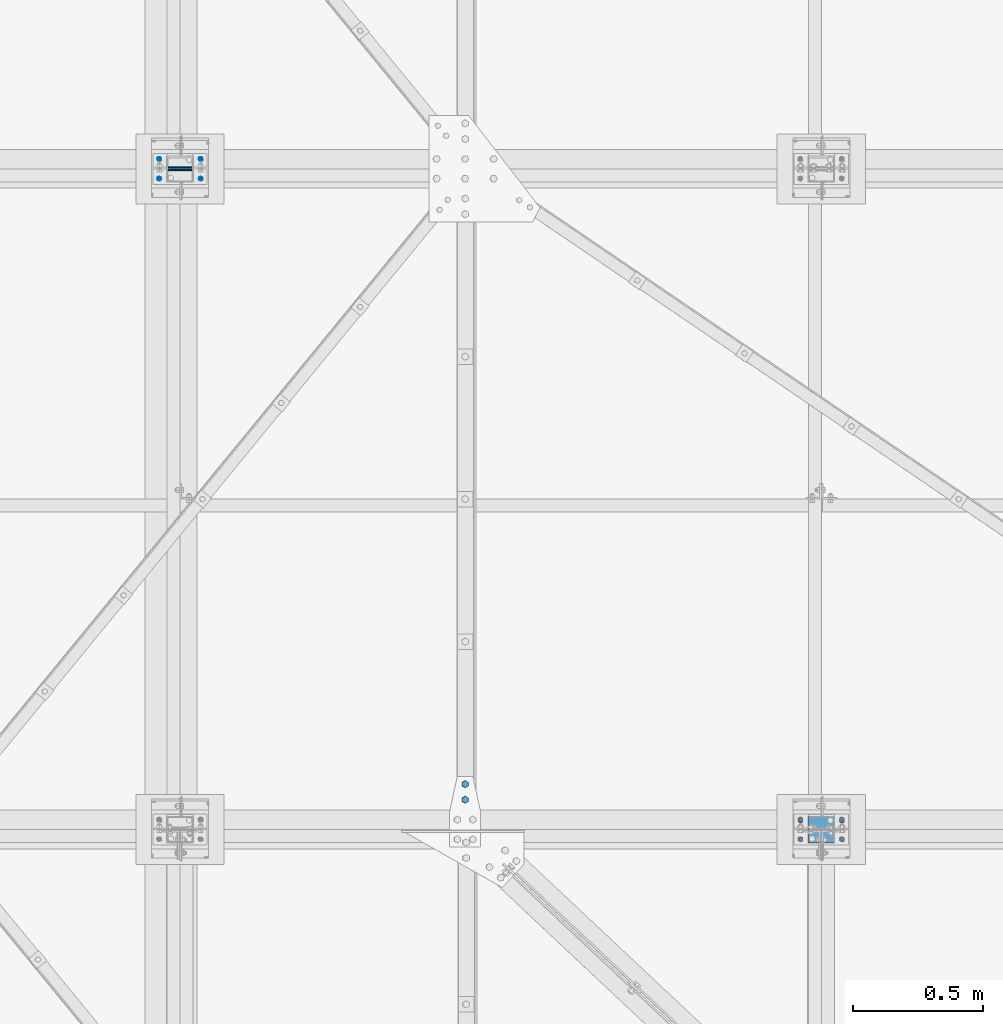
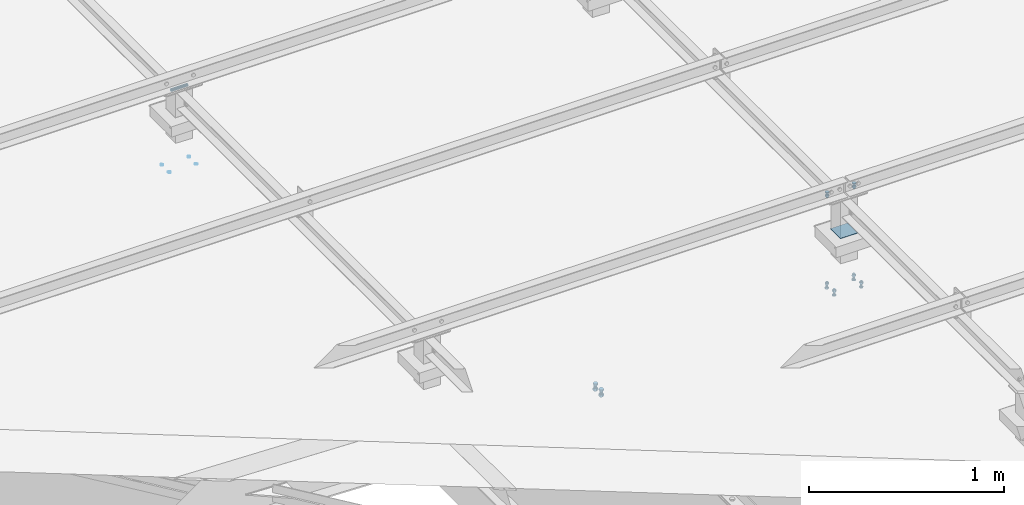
# One storey, part 314 of 3134: 6 mechanical fasteners, 6 elements without a shape of their own.
"""IFC2X3 building model written with IfcOpenShell, lengths in millimetres."""

from ifc_helpers import new_model, si_unit, frame, origin_with_axes, place, context, subcontext, project, spatial, faceted_brep, source, transform, mapped, material, type_object, element, aggregate, save


model = new_model("IFC2X3")

# Units and contexts
model_context = context("Model", 3, precision=1e-05, world=origin_with_axes())
body_context = subcontext(model_context, "Body", "Model", "MODEL_VIEW")
ifc_project = project(units=[si_unit("LENGTHUNIT", "METRE", prefix="MILLI"), si_unit("AREAUNIT", "SQUARE_METRE"), si_unit("VOLUMEUNIT", "CUBIC_METRE"), si_unit("MASSUNIT", "GRAM", prefix="KILO"), si_unit("TIMEUNIT", "SECOND"), si_unit("PLANEANGLEUNIT", "RADIAN"), si_unit("SOLIDANGLEUNIT", "STERADIAN"), si_unit("THERMODYNAMICTEMPERATUREUNIT", "DEGREE_CELSIUS"), si_unit("LUMINOUSINTENSITYUNIT", "LUMEN")], contexts=[model_context])

# Site, building, storey
site_placement = place(None, origin_with_axes())
site = spatial("IfcSite", under=ifc_project, at=site_placement, CompositionType="ELEMENT")
building_placement = place(site_placement, origin_with_axes())
building = spatial("IfcBuilding", under=site, at=building_placement, Name="Undefined", CompositionType="ELEMENT")
storey_placement = place(building_placement, origin_with_axes())
storey = spatial("IfcBuildingStorey", under=building, at=storey_placement, Name="Undefined", CompositionType="ELEMENT", Elevation=0.0)

# Assembly, mechanical fastener
assembly_1_placement = place(storey_placement, origin_with_axes())
assembly_1 = element("IfcElementAssembly", 1, at=assembly_1_placement, inside=storey, AssemblyPlace="NOTDEFINED", PredefinedType="RIGID_FRAME")
ifc_material_1 = material(Name="8.8")
mechanical_fastener_type = type_object("IfcMechanicalFastenerType", Name="Bolt assembly")
shared_shape_1 = source(origin_with_axes(), body_context, "Body", "Brep", [
    faceted_brep([(10.9696551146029, -14.0, 0.0), (5.48482755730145, -14.0, 9.5), (-5.48482755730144, -14.0, 9.5), (-10.9696551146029, -14.0, 1.34339530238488e-15), (-5.48482755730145, -14.0, -9.5), (5.48482755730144, -14.0, -9.50000000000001), (5.48482755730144, -6.0, -9.50000000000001), (-5.48482755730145, -6.0, -9.5), (-10.9696551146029, -6.0, 1.34339530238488e-15), (-5.48482755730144, -6.0, 9.5), (5.48482755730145, -6.0, 9.5), (10.9696551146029, -6.0, 0.0), (6.0, -6.0, 0.0), (5.19615242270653, -6.0, 3.00000000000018), (2.99999999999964, -6.0, 5.19615242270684), (-6.21801588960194e-13, -6.0, 6.0), (-3.00000000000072, -6.0, 5.19615242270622), (-5.19615242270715, -6.0, 2.9999999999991), (-6.0, -6.0, -1.24360317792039e-12), (-5.19615242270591, -6.0, -3.00000000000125), (-2.99999999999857, -6.0, -5.19615242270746), (1.85874342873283e-12, -6.0, -6.0), (3.00000000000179, -6.0, -5.1961524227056), (5.19615242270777, -6.0, -2.99999999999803), (5.19615242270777, 24.0, -2.99999999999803), (3.00000000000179, 24.0, -5.1961524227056), (1.85874342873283e-12, 24.0, -6.0), (-2.99999999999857, 24.0, -5.19615242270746), (-5.19615242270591, 24.0, -3.00000000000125), (-6.0, 24.0, -1.24360317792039e-12), (-5.19615242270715, 24.0, 2.9999999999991), (-3.00000000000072, 24.0, 5.19615242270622), (-6.21801588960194e-13, 24.0, 6.0), (2.99999999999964, 24.0, 5.19615242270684), (5.19615242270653, 24.0, 3.00000000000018), (6.0, 24.0, 0.0), (10.9696551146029, 6.00000000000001, 0.0), (5.48482755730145, 6.00000000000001, 9.5), (-5.48482755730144, 6.00000000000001, 9.5), (-10.9696551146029, 6.00000000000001, 1.34339530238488e-15), (-5.48482755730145, 6.00000000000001, -9.5), (5.48482755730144, 6.00000000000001, -9.50000000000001), (5.48482755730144, 16.0, -9.50000000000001), (-5.48482755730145, 16.0, -9.5), (-10.9696551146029, 16.0, 1.34339530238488e-15), (-5.48482755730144, 16.0, 9.5), (5.48482755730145, 16.0, 9.5), (10.9696551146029, 16.0, 0.0)], [[[0, 1, 2, 3, 4, 5]], [[6, 7, 8, 9, 10, 11]], [[0, 11, 10, 1]], [[1, 10, 9, 2]], [[2, 9, 8, 3]], [[3, 8, 7, 4]], [[4, 7, 6, 5]], [[5, 6, 11, 0]], [[12, 13, 14, 15, 16, 17, 18, 19, 20, 21, 22, 23]], [[24, 25, 26, 27, 28, 29, 30, 31, 32, 33, 34, 35]], [[12, 35, 34, 13]], [[13, 34, 33, 14]], [[14, 33, 32, 15]], [[15, 32, 31, 16]], [[16, 31, 30, 17]], [[17, 30, 29, 18]], [[18, 29, 28, 19]], [[19, 28, 27, 20]], [[20, 27, 26, 21]], [[21, 26, 25, 22]], [[22, 25, 24, 23]], [[23, 24, 35, 12]], [[36, 37, 38, 39, 40, 41]], [[42, 43, 44, 45, 46, 47]], [[36, 47, 46, 37]], [[37, 46, 45, 38]], [[38, 45, 44, 39]], [[39, 44, 43, 40]], [[40, 43, 42, 41]], [[41, 42, 47, 36]]]),
    faceted_brep([(7.0, -0.1, 0.0), (6.06217782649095, -0.1, 3.50000000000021), (3.49999999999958, -0.1, 6.06217782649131), (-7.25435187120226e-13, -0.1, 7.0), (-3.50000000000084, -0.1, 6.06217782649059), (-6.06217782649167, -0.1, 3.49999999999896), (-7.0, -0.1, -1.45087037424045e-12), (-6.06217782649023, -0.1, -3.50000000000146), (-3.49999999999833, -0.1, -6.06217782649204), (2.1685340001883e-12, -0.1, -7.0), (3.50000000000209, -0.1, -6.06217782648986), (6.0621778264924, -0.1, -3.4999999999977), (6.0621778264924, 6.00000000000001, -3.4999999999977), (3.50000000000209, 6.00000000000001, -6.06217782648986), (2.1685340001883e-12, 6.00000000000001, -7.0), (-3.49999999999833, 6.00000000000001, -6.06217782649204), (-6.06217782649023, 6.00000000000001, -3.50000000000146), (-7.0, 6.00000000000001, -1.45087037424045e-12), (-6.06217782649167, 6.00000000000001, 3.49999999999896), (-3.50000000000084, 6.00000000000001, 6.06217782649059), (-7.25435187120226e-13, 6.00000000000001, 7.0), (3.49999999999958, 6.00000000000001, 6.06217782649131), (6.06217782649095, 6.00000000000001, 3.50000000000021), (7.0, 6.00000000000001, 0.0), (7.0, -5.9, 0.0), (6.06217782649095, -5.9, 3.50000000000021), (3.49999999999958, -5.9, 6.06217782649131), (-7.25435187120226e-13, -5.9, 7.0), (-3.50000000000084, -5.9, 6.06217782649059), (-6.06217782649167, -5.9, 3.49999999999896), (-7.0, -5.9, -1.45087037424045e-12), (-6.06217782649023, -5.9, -3.50000000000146), (-3.49999999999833, -5.9, -6.06217782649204), (2.1685340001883e-12, -5.9, -7.0), (3.50000000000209, -5.9, -6.06217782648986), (6.0621778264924, -5.9, -3.4999999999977), (6.0621778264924, 0.0999999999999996, -3.4999999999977), (3.50000000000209, 0.0999999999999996, -6.06217782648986), (2.1685340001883e-12, 0.0999999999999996, -7.0), (-3.49999999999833, 0.0999999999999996, -6.06217782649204), (-6.06217782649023, 0.0999999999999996, -3.50000000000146), (-7.0, 0.0999999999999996, -1.45087037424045e-12), (-6.06217782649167, 0.0999999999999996, 3.49999999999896), (-3.50000000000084, 0.0999999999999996, 6.06217782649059), (-7.25435187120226e-13, 0.0999999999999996, 7.0), (3.49999999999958, 0.0999999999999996, 6.06217782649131), (6.06217782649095, 0.0999999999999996, 3.50000000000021), (7.0, 0.0999999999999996, 0.0)], [[[0, 1, 2, 3, 4, 5, 6, 7, 8, 9, 10, 11]], [[12, 13, 14, 15, 16, 17, 18, 19, 20, 21, 22, 23]], [[0, 23, 22, 1]], [[1, 22, 21, 2]], [[2, 21, 20, 3]], [[3, 20, 19, 4]], [[4, 19, 18, 5]], [[5, 18, 17, 6]], [[6, 17, 16, 7]], [[7, 16, 15, 8]], [[8, 15, 14, 9]], [[9, 14, 13, 10]], [[10, 13, 12, 11]], [[11, 12, 23, 0]], [[24, 25, 26, 27, 28, 29, 30, 31, 32, 33, 34, 35]], [[36, 37, 38, 39, 40, 41, 42, 43, 44, 45, 46, 47]], [[24, 47, 46, 25]], [[25, 46, 45, 26]], [[26, 45, 44, 27]], [[27, 44, 43, 28]], [[28, 43, 42, 29]], [[29, 42, 41, 30]], [[30, 41, 40, 31]], [[31, 40, 39, 32]], [[32, 39, 38, 33]], [[33, 38, 37, 34]], [[34, 37, 36, 35]], [[35, 36, 47, 24]]]),
])
mechanical_fastener_1_placement = place(assembly_1_placement, frame((73075.0, 2585.0, 5850.0), z_axis=(1.0, 0.0, 0.0), x_axis=(0.0, -1.0, 0.0)))
mechanical_fastener_1 = element("IfcMechanicalFastener", 2, at=mechanical_fastener_1_placement, type_object=mechanical_fastener_type, material=ifc_material_1, Name="Bolt assembly", NominalDiameter=12.0, NominalLength=30.0, context=body_context, shape_type="MappedRepresentation", body=[
    mapped(shared_shape_1, transform((0.0, -5.32963895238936e-10, -79.9999999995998))),
    mapped(shared_shape_1, transform((0.0, 5.3114490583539e-10, 79.9999999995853))),
])
aggregate(assembly_1, [mechanical_fastener_1])

assembly_2_placement = place(storey_placement, origin_with_axes())
assembly_2 = element("IfcElementAssembly", 3, at=assembly_2_placement, inside=storey, AssemblyPlace="NOTDEFINED", PredefinedType="RIGID_FRAME")
shared_shape_2 = source(origin_with_axes(), body_context, "Body", "Brep", [
    faceted_brep([(7.0, 13.0000253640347, 0.0), (6.06217782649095, 13.0000253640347, 3.50000000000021), (3.49999999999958, 13.0000253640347, 6.06217782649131), (-7.25435187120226e-13, 13.0000253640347, 7.0), (-3.50000000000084, 13.0000253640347, 6.06217782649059), (-6.06217782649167, 13.0000253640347, 3.49999999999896), (-7.0, 13.0000253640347, -1.45087037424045e-12), (-6.06217782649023, 13.0000253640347, -3.50000000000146), (-3.49999999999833, 13.0000253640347, -6.06217782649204), (2.1685340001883e-12, 13.0000253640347, -7.0), (3.50000000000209, 13.0000253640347, -6.06217782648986), (6.0621778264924, 13.0000253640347, -3.4999999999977), (6.0621778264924, 15.0999999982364, -3.4999999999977), (3.50000000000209, 15.0999999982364, -6.06217782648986), (2.1685340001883e-12, 15.0999999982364, -7.0), (-3.49999999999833, 15.0999999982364, -6.06217782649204), (-6.06217782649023, 15.0999999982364, -3.50000000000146), (-7.0, 15.0999999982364, -1.45087037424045e-12), (-6.06217782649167, 15.0999999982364, 3.49999999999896), (-3.50000000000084, 15.0999999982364, 6.06217782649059), (-7.25435187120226e-13, 15.0999999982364, 7.0), (3.49999999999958, 15.0999999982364, 6.06217782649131), (6.06217782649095, 15.0999999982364, 3.50000000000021), (7.0, 15.0999999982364, 0.0)], [[[0, 1, 2, 3, 4, 5, 6, 7, 8, 9, 10, 11]], [[12, 13, 14, 15, 16, 17, 18, 19, 20, 21, 22, 23]], [[0, 23, 22, 1]], [[1, 22, 21, 2]], [[2, 21, 20, 3]], [[3, 20, 19, 4]], [[4, 19, 18, 5]], [[5, 18, 17, 6]], [[6, 17, 16, 7]], [[7, 16, 15, 8]], [[8, 15, 14, 9]], [[9, 14, 13, 10]], [[10, 13, 12, 11]], [[11, 12, 23, 0]]]),
])
mechanical_fastener_2_placement = place(assembly_2_placement, frame((70599.3451187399, 5138.0, 5332.4572055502), z_axis=(-0.99951962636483, 0.0, 0.0309922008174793), x_axis=(0.0, -1.0, 0.0)))
mechanical_fastener_2 = element("IfcMechanicalFastener", 4, at=mechanical_fastener_2_placement, type_object=mechanical_fastener_type, material=ifc_material_1, Name="Bolt assembly", NominalDiameter=12.0, NominalLength=2.0, context=body_context, shape_type="MappedRepresentation", body=[
    mapped(shared_shape_2, transform((0.0, -5.32963895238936e-10, -79.9999999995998))),
    mapped(shared_shape_2, transform((76.0, -5.32963895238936e-10, -79.9999999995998))),
    mapped(shared_shape_2, transform((0.0, 5.3114490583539e-10, 79.9999999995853))),
    mapped(shared_shape_2, transform((76.0, 5.3114490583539e-10, 79.9999999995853))),
])
aggregate(assembly_2, [mechanical_fastener_2])

assembly_3_placement = place(storey_placement, origin_with_axes())
assembly_3 = element("IfcElementAssembly", 5, at=assembly_3_placement, inside=storey, AssemblyPlace="NOTDEFINED", PredefinedType="RIGID_FRAME")
shared_shape_3 = source(origin_with_axes(), body_context, "Body", "Brep", [
    faceted_brep([(9.0, -50.0, 0.0), (7.79422863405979, -50.0, 4.50000000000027), (4.49999999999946, -50.0, 7.79422863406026), (-9.3270238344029e-13, -50.0, 9.0), (-4.50000000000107, -50.0, 7.79422863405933), (-7.79422863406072, -50.0, 4.49999999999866), (-9.0, -50.0, -1.86540476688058e-12), (-7.79422863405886, -50.0, -4.50000000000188), (-4.49999999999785, -50.0, -7.79422863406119), (2.78811514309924e-12, -50.0, -9.0), (4.50000000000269, -50.0, -7.7942286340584), (7.79422863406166, -50.0, -4.49999999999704), (7.79422863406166, 50.1, -4.49999999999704), (4.50000000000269, 50.1, -7.7942286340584), (2.78811514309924e-12, 50.1, -9.0), (-4.49999999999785, 50.1, -7.79422863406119), (-7.79422863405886, 50.1, -4.50000000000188), (-9.0, 50.1, -1.86540476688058e-12), (-7.79422863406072, 50.1, 4.49999999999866), (-4.50000000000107, 50.1, 7.79422863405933), (-9.3270238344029e-13, 50.1, 9.0), (4.49999999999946, 50.1, 7.79422863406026), (7.79422863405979, 50.1, 4.50000000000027), (9.0, 50.1, 0.0)], [[[0, 1, 2, 3, 4, 5, 6, 7, 8, 9, 10, 11]], [[12, 13, 14, 15, 16, 17, 18, 19, 20, 21, 22, 23]], [[0, 23, 22, 1]], [[1, 22, 21, 2]], [[2, 21, 20, 3]], [[3, 20, 19, 4]], [[4, 19, 18, 5]], [[5, 18, 17, 6]], [[6, 17, 16, 7]], [[7, 16, 15, 8]], [[8, 15, 14, 9]], [[9, 14, 13, 10]], [[10, 13, 12, 11]], [[11, 12, 23, 0]]]),
])
mechanical_fastener_3_placement = place(assembly_3_placement, frame((70600.0, 5100.0, 5830.0), z_axis=(0.0, 1.0, 0.0), x_axis=(0.0, 0.0, 1.0)))
mechanical_fastener_3 = element("IfcMechanicalFastener", 6, at=mechanical_fastener_3_placement, type_object=mechanical_fastener_type, material=ifc_material_1, Name="Bolt assembly", NominalDiameter=16.0, NominalLength=100.0, context=body_context, shape_type="MappedRepresentation", body=[
    mapped(shared_shape_3, transform((0.0, 0.0, 0.0))),
])
aggregate(assembly_3, [mechanical_fastener_3])

assembly_4_placement = place(storey_placement, origin_with_axes())
assembly_4 = element("IfcElementAssembly", 7, at=assembly_4_placement, inside=storey, AssemblyPlace="NOTDEFINED", PredefinedType="RIGID_FRAME")
ifc_material_2 = material(Name="6.8")
shared_shape_4 = source(origin_with_axes(), body_context, "Body", "Brep", [
    faceted_brep([(51.5, 1.36424205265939e-12, 50.0), (51.3858192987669, 1.36424205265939e-12, 50.5740251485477), (51.0606601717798, 1.36424205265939e-12, 51.0606601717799), (50.5740251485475, 1.36424205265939e-12, 51.385819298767), (-50.0000000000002, 1.36424205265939e-12, 51.5), (-50.7500000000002, 1.36424205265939e-12, 51.2990381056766), (-51.2990381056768, 1.36424205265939e-12, 50.7499999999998), (-51.5, 1.36424205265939e-12, 49.9999999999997), (-51.5, 1.36424205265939e-12, -50.0000000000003), (-51.2990381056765, 1.36424205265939e-12, -50.7500000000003), (-50.7499999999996, 1.36424205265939e-12, -51.2990381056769), (-49.9999999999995, 1.36424205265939e-12, -51.5), (50.0000000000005, 1.36424205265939e-12, -51.5), (50.7500000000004, 1.36424205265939e-12, -51.2990381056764), (51.2990381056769, 1.36424205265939e-12, -50.7499999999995), (51.5, 1.36424205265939e-12, -49.9999999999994), (51.5, 5.10000000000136, -49.9999999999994), (51.2990381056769, 5.10000000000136, -50.7499999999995), (50.7500000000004, 5.10000000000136, -51.2990381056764), (50.0000000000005, 5.10000000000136, -51.5), (-49.9999999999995, 5.10000000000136, -51.5), (-50.7499999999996, 5.10000000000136, -51.2990381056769), (-51.2990381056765, 5.10000000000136, -50.7500000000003), (-51.5, 5.10000000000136, -50.0000000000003), (-51.5, 5.10000000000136, 49.9999999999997), (-51.2990381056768, 5.10000000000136, 50.7499999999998), (-50.7500000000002, 5.10000000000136, 51.2990381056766), (-50.0000000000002, 5.10000000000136, 51.5), (50.5740251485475, 5.10000000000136, 51.385819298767), (51.0606601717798, 5.10000000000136, 51.0606601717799), (51.3858192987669, 5.10000000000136, 50.5740251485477), (51.5, 5.10000000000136, 50.0)], [[[0, 1, 2, 3, 4, 5, 6, 7, 8, 9, 10, 11, 12, 13, 14, 15]], [[16, 17, 18, 19, 20, 21, 22, 23, 24, 25, 26, 27, 28, 29, 30, 31]], [[0, 31, 30, 1]], [[1, 30, 29, 2]], [[2, 29, 28, 3]], [[3, 28, 27, 4]], [[4, 27, 26, 5]], [[5, 26, 25, 6]], [[6, 25, 24, 7]], [[7, 24, 23, 8]], [[8, 23, 22, 9]], [[9, 22, 21, 10]], [[10, 21, 20, 11]], [[11, 20, 19, 12]], [[12, 19, 18, 13]], [[13, 18, 17, 14]], [[14, 17, 16, 15]], [[15, 16, 31, 0]]]),
])
mechanical_fastener_4_placement = place(assembly_4_placement, frame((73075.0, 2550.0, 5610.44), z_axis=(0.0, -1.0, 0.0), x_axis=(-1.0, 0.0, 0.0)))
mechanical_fastener_4 = element("IfcMechanicalFastener", 8, at=mechanical_fastener_4_placement, type_object=mechanical_fastener_type, material=ifc_material_2, Name="Bolt assembly", NominalDiameter=10.0, NominalLength=5.0, context=body_context, shape_type="MappedRepresentation", body=[
    mapped(shared_shape_4, transform((0.0, 0.0, 0.0))),
])
aggregate(assembly_4, [mechanical_fastener_4])

assembly_5_placement = place(storey_placement, origin_with_axes())
assembly_5 = element("IfcElementAssembly", 9, at=assembly_5_placement, inside=storey, Name="300", AssemblyPlace="NOTDEFINED", PredefinedType="RIGID_FRAME")
shared_shape_5 = source(origin_with_axes(), body_context, "Body", "Brep", [
    faceted_brep([(10.9696551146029, -10.2005277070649, 0.0), (5.48482755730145, -10.2005277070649, 9.5), (-5.48482755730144, -10.2005277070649, 9.5), (-10.9696551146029, -10.2005277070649, 1.34339530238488e-15), (-5.48482755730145, -10.2005277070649, -9.5), (5.48482755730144, -10.2005277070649, -9.50000000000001), (5.48482755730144, -2.20052770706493, -9.50000000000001), (-5.48482755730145, -2.20052770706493, -9.5), (-10.9696551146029, -2.20052770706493, 1.34339530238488e-15), (-5.48482755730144, -2.20052770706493, 9.5), (5.48482755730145, -2.20052770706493, 9.5), (10.9696551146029, -2.20052770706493, 0.0), (6.0, -2.20052770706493, 0.0), (5.19615242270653, -2.20052770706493, 3.00000000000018), (2.99999999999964, -2.20052770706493, 5.19615242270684), (-6.21801588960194e-13, -2.20052770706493, 6.0), (-3.00000000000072, -2.20052770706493, 5.19615242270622), (-5.19615242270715, -2.20052770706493, 2.9999999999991), (-6.0, -2.20052770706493, -1.24360317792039e-12), (-5.19615242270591, -2.20052770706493, -3.00000000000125), (-2.99999999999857, -2.20052770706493, -5.19615242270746), (1.85874342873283e-12, -2.20052770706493, -6.0), (3.00000000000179, -2.20052770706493, -5.1961524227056), (5.19615242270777, -2.20052770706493, -2.99999999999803), (5.19615242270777, 32.7994722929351, -2.99999999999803), (3.00000000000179, 32.7994722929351, -5.1961524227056), (1.85874342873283e-12, 32.7994722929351, -6.0), (-2.99999999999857, 32.7994722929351, -5.19615242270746), (-5.19615242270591, 32.7994722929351, -3.00000000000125), (-6.0, 32.7994722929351, -1.24360317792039e-12), (-5.19615242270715, 32.7994722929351, 2.9999999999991), (-3.00000000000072, 32.7994722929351, 5.19615242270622), (-6.21801588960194e-13, 32.7994722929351, 6.0), (2.99999999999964, 32.7994722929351, 5.19615242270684), (5.19615242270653, 32.7994722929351, 3.00000000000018), (6.0, 32.7994722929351, 0.0), (10.9696551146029, 17.0008987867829, 0.0), (5.48482755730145, 17.0008987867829, 9.5), (-5.48482755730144, 17.0008987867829, 9.5), (-10.9696551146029, 17.0008987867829, 1.34339530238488e-15), (-5.48482755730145, 17.0008987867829, -9.5), (5.48482755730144, 17.0008987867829, -9.50000000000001), (5.48482755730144, 27.0008987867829, -9.50000000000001), (-5.48482755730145, 27.0008987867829, -9.5), (-10.9696551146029, 27.0008987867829, 1.34339530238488e-15), (-5.48482755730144, 27.0008987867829, 9.5), (5.48482755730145, 27.0008987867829, 9.5), (10.9696551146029, 27.0008987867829, 0.0)], [[[0, 1, 2, 3, 4, 5]], [[6, 7, 8, 9, 10, 11]], [[0, 11, 10, 1]], [[1, 10, 9, 2]], [[2, 9, 8, 3]], [[3, 8, 7, 4]], [[4, 7, 6, 5]], [[5, 6, 11, 0]], [[12, 13, 14, 15, 16, 17, 18, 19, 20, 21, 22, 23]], [[24, 25, 26, 27, 28, 29, 30, 31, 32, 33, 34, 35]], [[12, 35, 34, 13]], [[13, 34, 33, 14]], [[14, 33, 32, 15]], [[15, 32, 31, 16]], [[16, 31, 30, 17]], [[17, 30, 29, 18]], [[18, 29, 28, 19]], [[19, 28, 27, 20]], [[20, 27, 26, 21]], [[21, 26, 25, 22]], [[22, 25, 24, 23]], [[23, 24, 35, 12]], [[36, 37, 38, 39, 40, 41]], [[42, 43, 44, 45, 46, 47]], [[36, 47, 46, 37]], [[37, 46, 45, 38]], [[38, 45, 44, 39]], [[39, 44, 43, 40]], [[40, 43, 42, 41]], [[41, 42, 47, 36]]]),
    faceted_brep([(7.0, 8.90089878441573, 0.0), (6.06217782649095, 8.90089878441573, 3.50000000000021), (3.49999999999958, 8.90089878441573, 6.06217782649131), (-7.25435187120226e-13, 8.90089878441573, 7.0), (-3.50000000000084, 8.90089878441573, 6.06217782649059), (-6.06217782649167, 8.90089878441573, 3.49999999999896), (-7.0, 8.90089878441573, -1.45087037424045e-12), (-6.06217782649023, 8.90089878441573, -3.50000000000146), (-3.49999999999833, 8.90089878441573, -6.06217782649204), (2.1685340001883e-12, 8.90089878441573, -7.0), (3.50000000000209, 8.90089878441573, -6.06217782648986), (6.0621778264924, 8.90089878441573, -3.4999999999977), (6.0621778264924, 17.0008987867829, -3.4999999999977), (3.50000000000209, 17.0008987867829, -6.06217782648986), (2.1685340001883e-12, 17.0008987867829, -7.0), (-3.49999999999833, 17.0008987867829, -6.06217782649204), (-6.06217782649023, 17.0008987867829, -3.50000000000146), (-7.0, 17.0008987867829, -1.45087037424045e-12), (-6.06217782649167, 17.0008987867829, 3.49999999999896), (-3.50000000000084, 17.0008987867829, 6.06217782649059), (-7.25435187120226e-13, 17.0008987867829, 7.0), (3.49999999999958, 17.0008987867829, 6.06217782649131), (6.06217782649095, 17.0008987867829, 3.50000000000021), (7.0, 17.0008987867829, 0.0), (7.0, -2.10052770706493, 0.0), (6.06217782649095, -2.10052770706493, 3.50000000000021), (3.49999999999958, -2.10052770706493, 6.06217782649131), (-7.25435187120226e-13, -2.10052770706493, 7.0), (-3.50000000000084, -2.10052770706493, 6.06217782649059), (-6.06217782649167, -2.10052770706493, 3.49999999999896), (-7.0, -2.10052770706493, -1.45087037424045e-12), (-6.06217782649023, -2.10052770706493, -3.50000000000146), (-3.49999999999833, -2.10052770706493, -6.06217782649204), (2.1685340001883e-12, -2.10052770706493, -7.0), (3.50000000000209, -2.10052770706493, -6.06217782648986), (6.0621778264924, -2.10052770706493, -3.4999999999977), (6.0621778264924, 7.09947210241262, -3.4999999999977), (3.50000000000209, 7.09947210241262, -6.06217782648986), (2.1685340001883e-12, 7.09947210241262, -7.0), (-3.49999999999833, 7.09947210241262, -6.06217782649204), (-6.06217782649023, 7.09947210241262, -3.50000000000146), (-7.0, 7.09947210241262, -1.45087037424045e-12), (-6.06217782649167, 7.09947210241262, 3.49999999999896), (-3.50000000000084, 7.09947210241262, 6.06217782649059), (-7.25435187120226e-13, 7.09947210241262, 7.0), (3.49999999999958, 7.09947210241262, 6.06217782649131), (6.06217782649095, 7.09947210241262, 3.50000000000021), (7.0, 7.09947210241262, 0.0)], [[[0, 1, 2, 3, 4, 5, 6, 7, 8, 9, 10, 11]], [[12, 13, 14, 15, 16, 17, 18, 19, 20, 21, 22, 23]], [[0, 23, 22, 1]], [[1, 22, 21, 2]], [[2, 21, 20, 3]], [[3, 20, 19, 4]], [[4, 19, 18, 5]], [[5, 18, 17, 6]], [[6, 17, 16, 7]], [[7, 16, 15, 8]], [[8, 15, 14, 9]], [[9, 14, 13, 10]], [[10, 13, 12, 11]], [[11, 12, 23, 0]], [[24, 25, 26, 27, 28, 29, 30, 31, 32, 33, 34, 35]], [[36, 37, 38, 39, 40, 41, 42, 43, 44, 45, 46, 47]], [[24, 47, 46, 25]], [[25, 46, 45, 26]], [[26, 45, 44, 27]], [[27, 44, 43, 28]], [[28, 43, 42, 29]], [[29, 42, 41, 30]], [[30, 41, 40, 31]], [[31, 40, 39, 32]], [[32, 39, 38, 33]], [[33, 38, 37, 34]], [[34, 37, 36, 35]], [[35, 36, 47, 24]]]),
])
mechanical_fastener_5_placement = place(assembly_5_placement, frame((73074.5351187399, 2588.0, 5261.7372055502), z_axis=(-0.99951962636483, 0.0, 0.0309922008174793), x_axis=(0.0, -1.0, 0.0)))
mechanical_fastener_5 = element("IfcMechanicalFastener", 10, at=mechanical_fastener_5_placement, type_object=mechanical_fastener_type, material=ifc_material_1, Name="Bolt assembly", NominalDiameter=12.0, NominalLength=35.0, context=body_context, shape_type="MappedRepresentation", body=[
    mapped(shared_shape_5, transform((0.0, -5.32963895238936e-10, -79.9999999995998))),
    mapped(shared_shape_5, transform((76.0, -5.32963895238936e-10, -79.9999999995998))),
    mapped(shared_shape_5, transform((0.0, 5.3114490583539e-10, 79.9999999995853))),
    mapped(shared_shape_5, transform((76.0, 5.3114490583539e-10, 79.9999999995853))),
])
aggregate(assembly_5, [mechanical_fastener_5])

assembly_6_placement = place(storey_placement, origin_with_axes())
assembly_6 = element("IfcElementAssembly", 11, at=assembly_6_placement, inside=storey, AssemblyPlace="NOTDEFINED", PredefinedType="RIGID_FRAME")
shared_shape_6 = source(origin_with_axes(), body_context, "Body", "Brep", [
    faceted_brep([(13.856406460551, -21.0000017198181, 0.0), (6.92820323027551, -21.0000017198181, 12.0), (-6.92820323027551, -21.0000017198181, 12.0), (-13.856406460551, -21.0000017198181, 1.69692038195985e-15), (-6.92820323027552, -21.0000017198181, -12.0), (6.9282032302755, -21.0000017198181, -12.0), (6.9282032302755, -11.0000017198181, -12.0), (-6.92820323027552, -11.0000017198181, -12.0), (-13.856406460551, -11.0000017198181, 1.69692038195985e-15), (-6.92820323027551, -11.0000017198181, 12.0), (6.92820323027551, -11.0000017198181, 12.0), (13.856406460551, -11.0000017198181, 0.0), (8.0, -11.0000017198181, 0.0), (6.92820323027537, -11.0000017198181, 4.00000000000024), (3.99999999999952, -11.0000017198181, 6.92820323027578), (-8.29068785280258e-13, -11.0000017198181, 8.0), (-4.00000000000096, -11.0000017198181, 6.92820323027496), (-6.9282032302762, -11.0000017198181, 3.99999999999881), (-8.0, -11.0000017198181, -1.65813757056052e-12), (-6.92820323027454, -11.0000017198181, -4.00000000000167), (-3.99999999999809, -11.0000017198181, -6.92820323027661), (2.47832457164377e-12, -11.0000017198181, -8.0), (4.00000000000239, -11.0000017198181, -6.92820323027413), (6.92820323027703, -11.0000017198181, -3.99999999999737), (6.92820323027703, 29.0, -3.99999999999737), (4.00000000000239, 29.0, -6.92820323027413), (2.47832457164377e-12, 29.0, -8.0), (-3.99999999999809, 29.0, -6.92820323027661), (-6.92820323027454, 29.0, -4.00000000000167), (-8.0, 29.0, -1.65813757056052e-12), (-6.9282032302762, 29.0, 3.99999999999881), (-4.00000000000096, 29.0, 6.92820323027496), (-8.29068785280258e-13, 29.0, 8.0), (3.99999999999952, 29.0, 6.92820323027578), (6.92820323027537, 29.0, 4.00000000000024), (8.0, 29.0, 0.0), (13.856406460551, 10.9979999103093, 0.0), (6.92820323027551, 10.9979999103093, 12.0), (-6.92820323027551, 10.9979999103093, 12.0), (-13.856406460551, 10.9979999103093, 1.69692038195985e-15), (-6.92820323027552, 10.9979999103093, -12.0), (6.9282032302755, 10.9979999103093, -12.0), (6.9282032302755, 23.9979999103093, -12.0), (-6.92820323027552, 23.9979999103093, -12.0), (-13.856406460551, 23.9979999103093, 1.69692038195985e-15), (-6.92820323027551, 23.9979999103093, 12.0), (6.92820323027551, 23.9979999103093, 12.0), (13.856406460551, 23.9979999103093, 0.0)], [[[0, 1, 2, 3, 4, 5]], [[6, 7, 8, 9, 10, 11]], [[0, 11, 10, 1]], [[1, 10, 9, 2]], [[2, 9, 8, 3]], [[3, 8, 7, 4]], [[4, 7, 6, 5]], [[5, 6, 11, 0]], [[12, 13, 14, 15, 16, 17, 18, 19, 20, 21, 22, 23]], [[24, 25, 26, 27, 28, 29, 30, 31, 32, 33, 34, 35]], [[12, 35, 34, 13]], [[13, 34, 33, 14]], [[14, 33, 32, 15]], [[15, 32, 31, 16]], [[16, 31, 30, 17]], [[17, 30, 29, 18]], [[18, 29, 28, 19]], [[19, 28, 27, 20]], [[20, 27, 26, 21]], [[21, 26, 25, 22]], [[22, 25, 24, 23]], [[23, 24, 35, 12]], [[36, 37, 38, 39, 40, 41]], [[42, 43, 44, 45, 46, 47]], [[36, 47, 46, 37]], [[37, 46, 45, 38]], [[38, 45, 44, 39]], [[39, 44, 43, 40]], [[40, 43, 42, 41]], [[41, 42, 47, 36]]]),
    faceted_brep([(9.0, -10.9000017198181, 0.0), (7.79422863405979, -10.9000017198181, 4.50000000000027), (4.49999999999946, -10.9000017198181, 7.79422863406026), (-9.3270238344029e-13, -10.9000017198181, 9.0), (-4.50000000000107, -10.9000017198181, 7.79422863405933), (-7.79422863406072, -10.9000017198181, 4.49999999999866), (-9.0, -10.9000017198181, -1.86540476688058e-12), (-7.79422863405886, -10.9000017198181, -4.50000000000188), (-4.49999999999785, -10.9000017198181, -7.79422863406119), (2.78811514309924e-12, -10.9000017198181, -9.0), (4.50000000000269, -10.9000017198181, -7.7942286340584), (7.79422863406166, -10.9000017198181, -4.49999999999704), (7.79422863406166, -3.9, -4.49999999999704), (4.50000000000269, -3.9, -7.7942286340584), (2.78811514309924e-12, -3.9, -9.0), (-4.49999999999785, -3.9, -7.79422863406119), (-7.79422863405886, -3.9, -4.50000000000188), (-9.0, -3.9, -1.86540476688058e-12), (-7.79422863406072, -3.9, 4.49999999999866), (-4.50000000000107, -3.9, 7.79422863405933), (-9.3270238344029e-13, -3.9, 9.0), (4.49999999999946, -3.9, 7.79422863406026), (7.79422863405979, -3.9, 4.50000000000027), (9.0, -3.9, 0.0), (9.0, 3.89799991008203, 0.0), (7.79422863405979, 3.89799991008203, 4.50000000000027), (4.49999999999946, 3.89799991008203, 7.79422863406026), (-9.3270238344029e-13, 3.89799991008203, 9.0), (-4.50000000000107, 3.89799991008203, 7.79422863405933), (-7.79422863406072, 3.89799991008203, 4.49999999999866), (-9.0, 3.89799991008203, -1.86540476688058e-12), (-7.79422863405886, 3.89799991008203, -4.50000000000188), (-4.49999999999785, 3.89799991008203, -7.79422863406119), (2.78811514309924e-12, 3.89799991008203, -9.0), (4.50000000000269, 3.89799991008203, -7.7942286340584), (7.79422863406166, 3.89799991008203, -4.49999999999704), (7.79422863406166, 10.9979999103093, -4.49999999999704), (4.50000000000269, 10.9979999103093, -7.7942286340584), (2.78811514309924e-12, 10.9979999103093, -9.0), (-4.49999999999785, 10.9979999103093, -7.79422863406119), (-7.79422863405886, 10.9979999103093, -4.50000000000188), (-9.0, 10.9979999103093, -1.86540476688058e-12), (-7.79422863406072, 10.9979999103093, 4.49999999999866), (-4.50000000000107, 10.9979999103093, 7.79422863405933), (-9.3270238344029e-13, 10.9979999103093, 9.0), (4.49999999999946, 10.9979999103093, 7.79422863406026), (7.79422863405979, 10.9979999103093, 4.50000000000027), (9.0, 10.9979999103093, 0.0), (9.0, -3.99999624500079, 0.0), (7.79422863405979, -3.99999624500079, 4.50000000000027), (4.49999999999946, -3.99999624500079, 7.79422863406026), (-9.3270238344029e-13, -3.99999624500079, 9.0), (-4.50000000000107, -3.99999624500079, 7.79422863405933), (-7.79422863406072, -3.99999624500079, 4.49999999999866), (-9.0, -3.99999624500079, -1.86540476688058e-12), (-7.79422863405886, -3.99999624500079, -4.50000000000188), (-4.49999999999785, -3.99999624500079, -7.79422863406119), (2.78811514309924e-12, -3.99999624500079, -9.0), (4.50000000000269, -3.99999624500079, -7.7942286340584), (7.79422863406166, -3.99999624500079, -4.49999999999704), (7.79422863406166, 4.00000375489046, -4.49999999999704), (4.50000000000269, 4.00000375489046, -7.7942286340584), (2.78811514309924e-12, 4.00000375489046, -9.0), (-4.49999999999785, 4.00000375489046, -7.79422863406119), (-7.79422863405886, 4.00000375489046, -4.50000000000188), (-9.0, 4.00000375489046, -1.86540476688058e-12), (-7.79422863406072, 4.00000375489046, 4.49999999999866), (-4.50000000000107, 4.00000375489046, 7.79422863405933), (-9.3270238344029e-13, 4.00000375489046, 9.0), (4.49999999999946, 4.00000375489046, 7.79422863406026), (7.79422863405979, 4.00000375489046, 4.50000000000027), (9.0, 4.00000375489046, 0.0)], [[[0, 1, 2, 3, 4, 5, 6, 7, 8, 9, 10, 11]], [[12, 13, 14, 15, 16, 17, 18, 19, 20, 21, 22, 23]], [[0, 23, 22, 1]], [[1, 22, 21, 2]], [[2, 21, 20, 3]], [[3, 20, 19, 4]], [[4, 19, 18, 5]], [[5, 18, 17, 6]], [[6, 17, 16, 7]], [[7, 16, 15, 8]], [[8, 15, 14, 9]], [[9, 14, 13, 10]], [[10, 13, 12, 11]], [[11, 12, 23, 0]], [[24, 25, 26, 27, 28, 29, 30, 31, 32, 33, 34, 35]], [[36, 37, 38, 39, 40, 41, 42, 43, 44, 45, 46, 47]], [[24, 47, 46, 25]], [[25, 46, 45, 26]], [[26, 45, 44, 27]], [[27, 44, 43, 28]], [[28, 43, 42, 29]], [[29, 42, 41, 30]], [[30, 41, 40, 31]], [[31, 40, 39, 32]], [[32, 39, 38, 33]], [[33, 38, 37, 34]], [[34, 37, 36, 35]], [[35, 36, 47, 24]], [[48, 49, 50, 51, 52, 53, 54, 55, 56, 57, 58, 59]], [[60, 61, 62, 63, 64, 65, 66, 67, 68, 69, 70, 71]], [[48, 71, 70, 49]], [[49, 70, 69, 50]], [[50, 69, 68, 51]], [[51, 68, 67, 52]], [[52, 67, 66, 53]], [[53, 66, 65, 54]], [[54, 65, 64, 55]], [[55, 64, 63, 56]], [[56, 63, 62, 57]], [[57, 62, 61, 58]], [[58, 61, 60, 59]], [[59, 60, 71, 48]]]),
])
mechanical_fastener_6_placement = place(assembly_6_placement, frame((71700.0552171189, 2664.99999999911, 5010.20374995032), z_axis=(-0.999519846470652, 0.0, 0.0309851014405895), x_axis=(0.0, 1.0, 0.0)))
mechanical_fastener_6 = element("IfcMechanicalFastener", 12, at=mechanical_fastener_6_placement, type_object=mechanical_fastener_type, material=ifc_material_1, Name="Bolt assembly", NominalDiameter=16.0, NominalLength=40.0, context=body_context, shape_type="MappedRepresentation", body=[
    mapped(shared_shape_6, transform((0.0, 0.0, 0.0))),
    mapped(shared_shape_6, transform((59.9999999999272, 0.0, 5.40239852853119e-10))),
])
aggregate(assembly_6, [mechanical_fastener_6])

save(model, "model.ifc")
